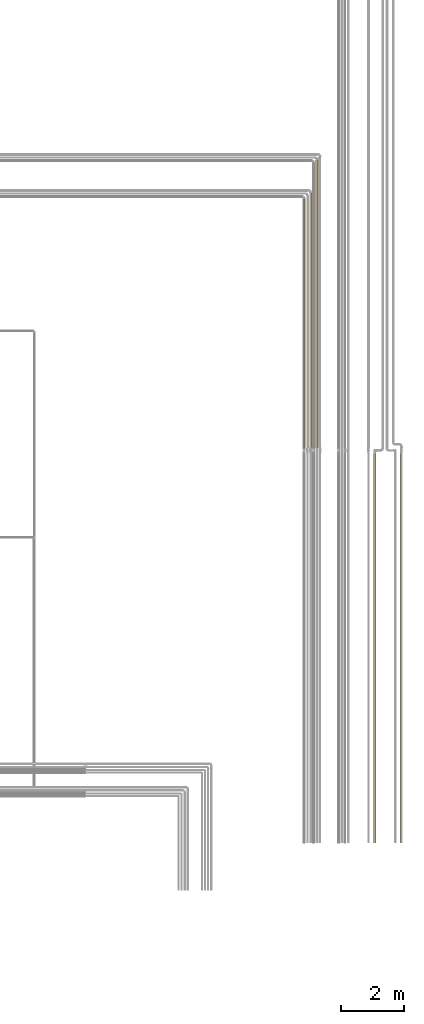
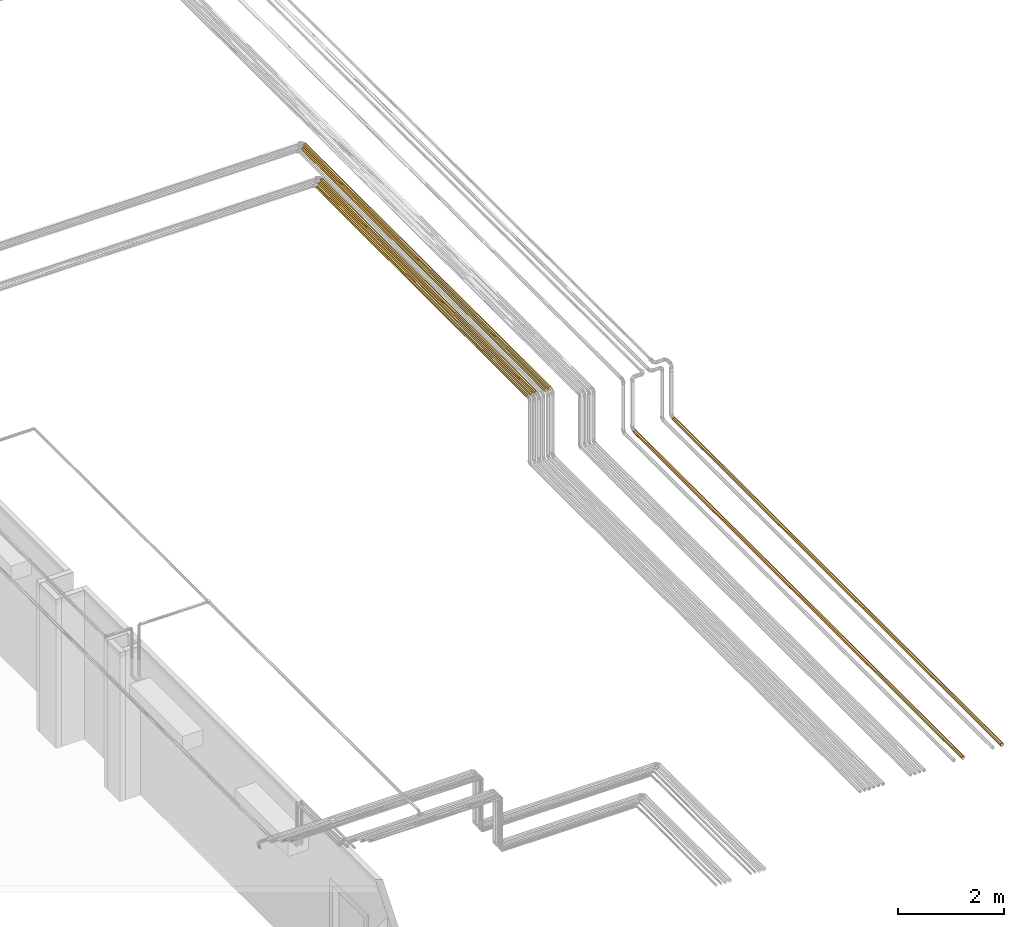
# One storey, part 136 of 652: 7 coverings.
"""IFC2X3 building model written with IfcOpenShell, lengths in millimetres."""

from ifc_helpers import new_model, entity, si_unit, converted_unit, direction, frame, origin, place, context, subcontext, project, spatial, faceted_brep, material, type_object, element, save


model = new_model("IFC2X3")

# Units and contexts
model_context = context("Model", 3, precision=0.01, world=frame((0.0, 0.0, 308426.39999999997)), true_north=direction((6.123233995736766e-17, 1.0)))
plan_context = context("Plan", 3, precision=0.01, world=frame((0.0, 0.0, 308426.39999999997)), true_north=direction((6.123233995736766e-17, 1.0)))
body_context = subcontext(model_context, "Body", "Model", "MODEL_VIEW")
ifc_project = project(units=[si_unit("LENGTHUNIT", "METRE", prefix="MILLI"), si_unit("AREAUNIT", "SQUARE_METRE"), si_unit("VOLUMEUNIT", "CUBIC_METRE"), converted_unit("PLANEANGLEUNIT", "DEGREE", entity("IfcPlaneAngleMeasure", 0.017453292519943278), si_unit("PLANEANGLEUNIT", "RADIAN"), dimensions=[0, 0, 0, 0, 0, 0, 0])], contexts=[model_context, plan_context])

# Site, building, storey
site_placement = place(None, origin())
site = spatial("IfcSite", under=ifc_project, at=site_placement, Name="Default", CompositionType="ELEMENT")
building_placement = place(site_placement, origin())
building = spatial("IfcBuilding", under=site, at=building_placement, CompositionType="ELEMENT")
storey_placement = place(building_placement, frame((0.0, 0.0, 1730.6999999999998)))
storey = spatial("IfcBuildingStorey", under=building, at=storey_placement, Name="EG_Produktion_FFB", CompositionType="ELEMENT", Elevation=1730.6999999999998)

# Coverings
ifc_material = material(Name="Dämmung - Armaflex-Schlauch")
covering_type = type_object("IfcCoveringType", Name="Rohrdämmung außen:Armaflex-Schlauch", PredefinedType="INSULATION")
covering_1_placement = place(storey_placement, frame((79540.49747546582, 39098.028353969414, 2358.4047277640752)))
element("IfcCovering", 1, at=covering_1_placement, inside=storey, type_object=covering_type, material=ifc_material, Name="Rohrdämmung außen:Armaflex-Schlauch", ObjectType="Rohrdämmung außen:Armaflex-Schlauch", PredefinedType="INSULATION", context=body_context, shape_type="Brep", body=[
    faceted_brep([(69.87954348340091, 12450.280000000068, 13.311000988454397), (62.80847567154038, 12450.280000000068, 10.382068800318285), (55.73740785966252, 12450.280000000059, 7.453136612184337), (48.730384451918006, 12450.280000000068, 4.550732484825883), (41.59527223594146, 12450.280000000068, 1.5952722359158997), (34.46016001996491, 12450.280000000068, 4.550732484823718), (27.45313661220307, 12450.280000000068, 7.453136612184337), (20.38206880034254, 12450.280000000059, 10.382068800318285), (13.31100098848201, 12450.280000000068, 13.311000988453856), (10.382068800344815, 12450.280000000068, 20.382068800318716), (7.453136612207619, 12450.280000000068, 27.45313661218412), (4.550732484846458, 12450.280000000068, 34.46016001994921), (1.5952722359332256, 12450.280000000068, 41.59527223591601), (4.550732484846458, 12450.280000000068, 48.73038445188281), (7.453136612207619, 12450.280000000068, 55.737407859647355), (10.382068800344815, 12450.280000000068, 62.80847567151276), (13.31100098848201, 12450.280000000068, 69.87954348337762), (20.38206880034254, 12450.280000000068, 72.80847567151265), (27.45313661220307, 12450.280000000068, 75.73740785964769), (34.46016001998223, 12450.280000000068, 78.63981198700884), (41.59527223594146, 12450.280000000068, 81.59527223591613), (48.73038445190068, 12450.280000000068, 78.63981198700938), (55.86549666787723, 12450.280000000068, 75.68435173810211), (62.87252007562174, 12450.280000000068, 72.78194761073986), (69.87954348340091, 12450.280000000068, 69.87954348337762), (72.8084756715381, 12450.280000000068, 62.80847567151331), (75.7374078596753, 12450.280000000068, 55.7374078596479), (78.63981198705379, 12450.280000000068, 48.73038445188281), (81.5952722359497, 12450.280000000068, 41.59527223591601), (78.6663400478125, 12450.280000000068, 34.52420442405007), (75.7374078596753, 12450.280000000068, 27.45313661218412), (72.8084756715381, 12450.280000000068, 20.382068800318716), (69.87954348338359, 0.0, 69.87954348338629), (62.80847567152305, 0.0, 72.80847567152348), (55.737407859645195, 0.0, 75.73740785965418), (48.666340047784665, 0.0, 78.66634004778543), (41.595272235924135, 0.0, 81.59527223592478), (34.46016001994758, 0.0, 78.6398119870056), (27.32504780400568, 0.0, 75.68435173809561), (20.31802439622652, 0.0, 72.78194761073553), (13.311000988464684, 0.0, 69.87954348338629), (10.382068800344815, 0.0, 62.80847567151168), (7.453136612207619, 0.0, 55.73740785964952), (4.524204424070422, 0.0, 48.666340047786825), (1.5952722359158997, 0.0, 41.595272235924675), (4.550732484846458, 0.0, 34.46016001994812), (7.50619273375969, 0.0, 27.32504780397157), (10.408596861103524, 0.0, 20.318024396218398), (13.311000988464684, 0.0, 13.311000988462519), (20.382068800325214, 0.0, 10.38206880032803), (27.45313661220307, 0.0, 7.453136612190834), (34.524204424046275, 0.0, 4.524204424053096), (41.595272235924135, 0.0, 1.5952722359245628), (48.730384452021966, 0.0, 4.550732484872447), (55.865496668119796, 0.0, 7.506192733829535), (62.87252007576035, 0.0, 10.408596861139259), (69.87954348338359, 0.0, 13.31100098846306), (72.8084756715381, 0.0, 20.382068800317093), (75.7374078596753, 0.0, 27.453136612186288), (78.6663400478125, 0.0, 34.52420442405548), (81.59527223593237, 0.0, 41.595272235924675), (78.63981198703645, 0.0, 48.730384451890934), (75.68435173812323, 0.0, 55.8654966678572), (72.78194761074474, 0.0, 62.87252007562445)], [[[0, 1, 2, 3, 4, 5, 6, 7, 8, 9, 10, 11, 12, 13, 14, 15, 16, 17, 18, 19, 20, 21, 22, 23, 24, 25, 26, 27, 28, 29, 30, 31]], [[32, 33, 34, 35, 36, 37, 38, 39, 40, 41, 42, 43, 44, 45, 46, 47, 48, 49, 50, 51, 52, 53, 54, 55, 56, 57, 58, 59, 60, 61, 62, 63]], [[58, 57, 56, 0, 31, 30, 29, 28, 60, 59]], [[0, 56, 55, 54, 53, 52, 4, 3, 2, 1]], [[4, 52, 51, 50, 49, 48, 8, 7, 6, 5]], [[8, 48, 47, 46, 45, 44, 12, 11, 10, 9]], [[12, 44, 43, 42, 41, 40, 16, 15, 14, 13]], [[16, 40, 39, 38, 37, 36, 20, 19, 18, 17]], [[32, 24, 23, 22, 21, 20, 36, 35, 34, 33]], [[24, 32, 63, 62, 61, 60, 28, 27, 26, 25]]]),
])
covering_2_placement = place(storey_placement, frame((78688.40472776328, 39098.02835396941, 2441.595272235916)))
element("IfcCovering", 2, at=covering_2_placement, inside=storey, type_object=covering_type, material=ifc_material, Name="Rohrdämmung außen:Armaflex-Schlauch", ObjectType="Rohrdämmung außen:Armaflex-Schlauch", PredefinedType="INSULATION", context=body_context, shape_type="Brep", body=[
    faceted_brep([(69.87954348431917, 12450.280000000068, -69.87954348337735), (62.80847567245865, 12450.280000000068, -72.80847567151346), (55.73740786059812, 12450.280000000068, -75.73740785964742), (48.73038445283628, 12450.280000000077, -78.63981198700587), (41.59527223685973, 12450.280000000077, -81.59527223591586), (34.4601600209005, 12450.280000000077, -78.63981198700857), (27.45313661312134, 12450.280000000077, -75.73740785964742), (20.38206880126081, 12450.280000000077, -72.80847567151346), (13.311000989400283, 12450.280000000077, -69.8795434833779), (10.382068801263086, 12450.280000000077, -62.80847567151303), (7.453136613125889, 12450.280000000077, -55.73740785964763), (4.550732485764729, 12450.280000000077, -48.73038445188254), (1.5952722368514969, 12450.280000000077, -41.59527223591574), (4.550732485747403, 12450.280000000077, -34.46016001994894), (7.453136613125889, 12450.280000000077, -27.45313661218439), (10.382068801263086, 12450.280000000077, -20.38206880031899), (13.311000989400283, 12450.280000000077, -13.311000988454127), (20.38206880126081, 12450.280000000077, -10.382068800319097), (27.45313661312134, 12450.280000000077, -7.453136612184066), (34.46016002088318, 12450.280000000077, -4.550732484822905), (41.59527223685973, 12450.280000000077, -1.595272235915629), (48.73038445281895, 12450.280000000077, -4.550732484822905), (55.73740786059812, 12450.280000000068, -7.453136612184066), (62.80847567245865, 12450.280000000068, -10.382068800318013), (69.87954348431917, 12450.280000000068, -13.311000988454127), (72.80847567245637, 12450.280000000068, -20.382068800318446), (75.73740786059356, 12450.280000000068, -27.45313661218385), (78.63981198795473, 12450.280000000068, -34.46016001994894), (81.59527223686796, 12450.280000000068, -41.59527223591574), (78.66634004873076, 12450.280000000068, -48.66634004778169), (75.73740786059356, 12450.280000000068, -55.73740785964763), (72.80847567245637, 12450.280000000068, -62.80847567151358), (69.87954348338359, 0.0, -13.311000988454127), (62.872520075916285, 0.0, -10.408596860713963), (55.86549666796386, 0.0, -7.506192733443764), (48.73038445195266, 0.0, -4.5507324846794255), (41.595272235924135, 0.0, -1.595272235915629), (34.52420442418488, 0.0, -4.524204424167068), (27.453136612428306, 0.0, -7.453136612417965), (20.38206880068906, 0.0, -10.382068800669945), (13.311000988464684, 0.0, -13.311000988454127), (10.408596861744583, 0.0, -20.31802439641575), (7.506192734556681, 0.0, -27.325047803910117), (4.550732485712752, 0.0, -34.46016001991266), (1.5952722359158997, 0.0, -41.59527223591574), (4.550732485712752, 0.0, -48.7303844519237), (7.5061927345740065, 0.0, -55.865496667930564), (10.408596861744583, 0.0, -62.87252007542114), (13.311000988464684, 0.0, -69.8795434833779), (20.382068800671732, 0.0, -72.80847567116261), (27.453136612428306, 0.0, -75.73740785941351), (34.52420442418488, 0.0, -78.6663400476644), (41.595272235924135, 0.0, -81.59527223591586), (48.73038445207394, 0.0, -78.63981198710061), (55.865496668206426, 0.0, -75.68435173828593), (62.87252007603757, 0.0, -72.78194761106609), (69.87954348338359, 0.0, -69.87954348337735), (72.80847567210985, 0.0, -62.80847567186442), (75.73740786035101, 0.0, -55.73740785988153), (78.66634004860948, 0.0, -48.666340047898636), (81.59527223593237, 0.0, -41.59527223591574), (78.66634004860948, 0.0, -34.524204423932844), (75.73740786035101, 0.0, -27.45313661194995), (72.80847567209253, 0.0, -20.3820687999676)], [[[0, 1, 2, 3, 4, 5, 6, 7, 8, 9, 10, 11, 12, 13, 14, 15, 16, 17, 18, 19, 20, 21, 22, 23, 24, 25, 26, 27, 28, 29, 30, 31]], [[32, 33, 34, 35, 36, 37, 38, 39, 40, 41, 42, 43, 44, 45, 46, 47, 48, 49, 50, 51, 52, 53, 54, 55, 56, 57, 58, 59, 60, 61, 62, 63]], [[58, 57, 56, 0, 31, 30, 29, 28, 60, 59]], [[0, 56, 55, 54, 53, 52, 4, 3, 2, 1]], [[4, 52, 51, 50, 49, 48, 8, 7, 6, 5]], [[8, 48, 47, 46, 45, 44, 12, 11, 10, 9]], [[13, 12, 44, 43, 42, 41, 40, 16, 15, 14]], [[16, 40, 39, 38, 37, 36, 20, 19, 18, 17]], [[34, 33, 32, 24, 23, 22, 21, 20, 36, 35]], [[24, 32, 63, 62, 61, 60, 28, 27, 26, 25]]]),
])
covering_3_placement = place(storey_placement, frame((76541.94222776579, 51712.11260396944, 3861.942227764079)))
element("IfcCovering", 3, at=covering_3_placement, inside=storey, type_object=covering_type, material=ifc_material, Name="Rohrdämmung außen:Armaflex-Schlauch", ObjectType="Rohrdämmung außen:Armaflex-Schlauch", PredefinedType="INSULATION", context=body_context, shape_type="Brep", body=[
    faceted_brep([(18.72061147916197, 0.0, 9.60498647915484), (25.166331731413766, 0.0, 6.935081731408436), (31.612051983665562, 0.0, 4.265176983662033), (38.057772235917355, 0.0, 1.595272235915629), (42.85168017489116, 0.0, 3.5809739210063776), (50.94921274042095, 0.0, 6.935081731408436), (57.394932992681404, 0.0, 9.604986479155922), (63.8406532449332, 0.0, 12.274891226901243), (66.5105579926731, 0.0, 18.720611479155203), (69.18046274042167, 0.0, 25.166331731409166), (71.85036748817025, 0.0, 31.612051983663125), (74.52027223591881, 0.0, 38.057772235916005), (72.53457055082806, 0.0, 42.85168017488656), (69.18046274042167, 0.0, 50.949212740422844), (66.5105579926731, 0.0, 57.3949329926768), (63.8406532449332, 0.0, 63.84065324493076), (57.39493299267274, 0.0, 66.51055799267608), (50.94921274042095, 0.0, 69.18046274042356), (44.50349248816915, 0.0, 71.85036748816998), (38.057772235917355, 0.0, 74.52027223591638), (33.263864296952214, 0.0, 72.53457055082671), (25.166331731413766, 0.0, 69.18046274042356), (18.72061147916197, 0.0, 66.51055799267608), (12.274891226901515, 0.0, 63.84065324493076), (9.604986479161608, 0.0, 57.3949329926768), (6.935081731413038, 0.0, 50.949212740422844), (4.265176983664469, 0.0, 44.50349248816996), (1.5952722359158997, 0.0, 38.057772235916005), (4.265176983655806, 0.0, 31.612051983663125), (6.935081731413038, 0.0, 25.166331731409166), (9.604986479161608, 0.0, 18.720611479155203), (12.274891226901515, 0.0, 12.274891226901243), (1.5952722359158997, 8063.803146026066, 38.057772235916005), (5.566675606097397, 8063.803146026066, 47.645588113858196), (8.920783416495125, 8063.803146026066, 55.74312067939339), (12.274891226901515, 8063.803146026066, 63.84065324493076), (18.72061147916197, 8063.803146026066, 66.51055799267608), (25.166331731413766, 8063.803146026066, 69.18046274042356), (31.612051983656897, 8063.803146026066, 71.85036748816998), (38.057772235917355, 8063.803146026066, 74.52027223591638), (47.64558811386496, 8063.803146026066, 70.54886886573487), (55.74312067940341, 8063.803146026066, 67.19476105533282), (63.8406532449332, 8063.803146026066, 63.84065324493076), (66.5105579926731, 8063.803146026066, 57.3949329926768), (69.18046274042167, 8063.803146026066, 50.949212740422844), (71.8503674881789, 8063.803146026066, 44.50349248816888), (74.52027223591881, 8063.803146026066, 38.057772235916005), (70.54886886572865, 8063.803146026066, 28.469956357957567), (67.19476105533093, 8063.803146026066, 20.37242379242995), (63.8406532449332, 8063.803146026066, 12.274891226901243), (57.39493299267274, 8063.803146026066, 9.60498647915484), (50.94921274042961, 8063.803146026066, 6.935081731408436), (44.50349248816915, 8063.803146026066, 4.265176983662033), (38.057772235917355, 8063.803146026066, 1.595272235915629), (28.469956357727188, 8063.803146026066, 5.566675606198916), (20.37242379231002, 8063.803146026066, 8.920783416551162), (12.274891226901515, 8063.803146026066, 12.274891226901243), (9.604986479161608, 8063.803146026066, 18.720611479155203), (6.935081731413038, 8063.803146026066, 25.166331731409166), (4.265176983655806, 8063.803146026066, 31.612051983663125)], [[[0, 1, 2, 3, 4, 5, 6, 7, 8, 9, 10, 11, 12, 13, 14, 15, 16, 17, 18, 19, 20, 21, 22, 23, 24, 25, 26, 27, 28, 29, 30, 31]], [[32, 33, 34, 35, 36, 37, 38, 39, 40, 41, 42, 43, 44, 45, 46, 47, 48, 49, 50, 51, 52, 53, 54, 55, 56, 57, 58, 59]], [[58, 57, 56, 31, 30, 29, 28, 27, 32, 59]], [[54, 53, 3, 2, 1, 0, 31, 56, 55]], [[51, 50, 49, 7, 6, 5, 4, 3, 53, 52]], [[7, 49, 48, 47, 46, 11, 10, 9, 8]], [[44, 43, 42, 15, 14, 13, 12, 11, 46, 45]], [[15, 42, 41, 40, 39, 19, 18, 17, 16]], [[37, 36, 35, 23, 22, 21, 20, 19, 39, 38]], [[23, 35, 34, 33, 32, 27, 26, 25, 24]]]),
])
covering_4_placement = place(storey_placement, frame((76445.11722776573, 51698.07910396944, 3934.8827722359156)))
element("IfcCovering", 4, at=covering_4_placement, inside=storey, type_object=covering_type, material=ifc_material, Name="Rohrdämmung außen:Armaflex-Schlauch", ObjectType="Rohrdämmung außen:Armaflex-Schlauch", PredefinedType="INSULATION", context=body_context, shape_type="Brep", body=[
    faceted_brep([(17.229409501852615, 0.0, -60.85800996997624), (23.113863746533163, 0.0, -63.295430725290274), (28.998317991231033, 0.0, -65.73285148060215), (34.88277223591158, 0.0, -68.1702722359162), (39.10200314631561, 0.0, -66.42260957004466), (46.65168072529, 0.0, -63.295430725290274), (52.53613496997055, 0.0, -60.85800996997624), (58.420589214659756, 0.0, -58.42058921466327), (60.85800996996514, 0.0, -52.53613496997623), (63.295430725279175, 0.0, -46.65168072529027), (65.73285148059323, 0.0, -40.76722648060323), (68.17027223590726, 0.0, -34.882772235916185), (66.4226095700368, 0.0, -30.663541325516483), (63.295430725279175, 0.0, -23.113863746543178), (60.8580099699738, 0.0, -17.22940950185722), (58.420589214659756, 0.0, -11.344955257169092), (52.53613496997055, 0.0, -8.907534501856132), (46.65168072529, 0.0, -6.470113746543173), (40.76722648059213, 0.0, -4.0326929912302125), (34.88277223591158, 0.0, -1.5952722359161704), (30.663541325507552, 0.0, -3.3429349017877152), (23.113863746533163, 0.0, -6.470113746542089), (17.229409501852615, 0.0, -8.907534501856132), (11.344955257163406, 0.0, -11.344955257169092), (8.907534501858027, 0.0, -17.229409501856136), (6.470113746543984, 0.0, -23.113863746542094), (4.032692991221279, 0.0, -28.998317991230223), (1.5952722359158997, 0.0, -34.882772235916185), (4.0326929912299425, 0.0, -40.76722648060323), (6.470113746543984, 0.0, -46.65168072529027), (8.907534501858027, 0.0, -52.53613496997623), (11.344955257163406, 0.0, -58.42058921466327), (1.5952722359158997, 7991.870146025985, -34.882772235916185), (5.090597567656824, 7991.870146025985, -26.4443104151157), (8.217776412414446, 7991.870146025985, -18.894632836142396), (11.344955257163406, 7991.870146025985, -11.344955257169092), (17.229409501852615, 7991.870146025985, -8.907534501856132), (23.113863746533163, 7991.870146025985, -6.470113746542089), (28.998317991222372, 7991.870146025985, -4.0326929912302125), (34.88277223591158, 7991.870146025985, -1.5952722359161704), (43.32123405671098, 7991.870146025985, -5.0905975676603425), (50.87091163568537, 7991.870146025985, -8.2177764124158), (58.420589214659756, 7991.870146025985, -11.344955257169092), (60.85800996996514, 7991.870146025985, -17.22940950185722), (63.295430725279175, 7991.870146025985, -23.113863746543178), (65.73285148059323, 7991.870146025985, -28.99831799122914), (68.17027223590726, 7991.870146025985, -34.882772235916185), (64.67494690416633, 7991.870146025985, -43.321234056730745), (61.54776805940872, 7991.870146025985, -50.870911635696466), (58.420589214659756, 7991.870146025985, -58.42058921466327), (52.53613496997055, 7991.870146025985, -60.85800996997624), (46.65168072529, 7991.870146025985, -63.295430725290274), (40.76722648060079, 7991.870146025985, -65.73285148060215), (34.88277223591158, 7991.870146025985, -68.1702722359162), (26.444310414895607, 7991.870146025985, -64.67494690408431), (18.894632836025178, 7991.870146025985, -61.547768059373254), (11.344955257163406, 7991.870146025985, -58.42058921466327), (8.907534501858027, 7991.870146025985, -52.53613496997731), (6.470113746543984, 7991.870146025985, -46.65168072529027), (4.032692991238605, 7991.870146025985, -40.76722648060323)], [[[0, 1, 2, 3, 4, 5, 6, 7, 8, 9, 10, 11, 12, 13, 14, 15, 16, 17, 18, 19, 20, 21, 22, 23, 24, 25, 26, 27, 28, 29, 30, 31]], [[32, 33, 34, 35, 36, 37, 38, 39, 40, 41, 42, 43, 44, 45, 46, 47, 48, 49, 50, 51, 52, 53, 54, 55, 56, 57, 58, 59]], [[58, 57, 56, 31, 30, 29, 28, 27, 32, 59]], [[54, 53, 3, 2, 1, 0, 31, 56, 55]], [[51, 50, 49, 7, 6, 5, 4, 3, 53, 52]], [[7, 49, 48, 47, 46, 11, 10, 9, 8]], [[44, 43, 42, 15, 14, 13, 12, 11, 46, 45]], [[15, 42, 41, 40, 39, 19, 18, 17, 16]], [[37, 36, 35, 23, 22, 21, 20, 19, 39, 38]], [[23, 35, 34, 33, 32, 27, 26, 25, 24]]]),
])
covering_5_placement = place(storey_placement, frame((76638.76722776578, 51726.146103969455, 3858.767227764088)))
element("IfcCovering", 5, at=covering_5_placement, inside=storey, type_object=covering_type, material=ifc_material, Name="Rohrdämmung außen:Armaflex-Schlauch", ObjectType="Rohrdämmung außen:Armaflex-Schlauch", PredefinedType="INSULATION", context=body_context, shape_type="Brep", body=[
    faceted_brep([(20.211813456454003, 0.0, 10.302438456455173), (27.218799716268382, 0.0, 7.4000497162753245), (34.22578597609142, 0.0, 4.497660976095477), (41.23277223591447, 0.0, 1.595272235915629), (46.61822809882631, 0.0, 3.826001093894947), (55.246744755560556, 0.0, 7.4000497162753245), (62.25373101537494, 0.0, 10.302438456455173), (69.26071727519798, 0.0, 13.204827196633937), (72.1631060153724, 0.0, 20.211813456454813), (75.0654947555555, 0.0, 27.21879971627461), (77.9678834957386, 0.0, 34.22578597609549), (80.87027223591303, 0.0, 41.232772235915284), (78.63954337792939, 0.0, 46.61822809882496), (75.0654947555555, 0.0, 55.24674475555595), (72.16310601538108, 0.0, 62.25373101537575), (69.26071727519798, 0.0, 69.26071727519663), (62.25373101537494, 0.0, 72.16310601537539), (55.246744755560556, 0.0, 75.06549475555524), (48.23975849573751, 0.0, 77.96788349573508), (41.23277223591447, 0.0, 80.87027223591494), (35.84731637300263, 0.0, 78.6395433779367), (27.218799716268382, 0.0, 75.06549475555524), (20.211813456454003, 0.0, 72.16310601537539), (13.204827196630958, 0.0, 69.26071727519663), (10.302438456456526, 0.0, 62.25373101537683), (7.400049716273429, 0.0, 55.24674475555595), (4.497660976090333, 0.0, 48.23975849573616), (1.5952722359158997, 0.0, 41.232772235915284), (4.497660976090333, 0.0, 34.22578597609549), (7.400049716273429, 0.0, 27.21879971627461), (10.302438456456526, 0.0, 20.211813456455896), (13.204827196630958, 0.0, 13.204827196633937), (1.5952722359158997, 8135.7361460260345, 41.232772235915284), (6.056729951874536, 8135.7361460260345, 52.0036839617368), (9.630778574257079, 8135.736146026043, 60.63220061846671), (13.204827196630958, 8135.7361460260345, 69.26071727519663), (20.211813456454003, 8135.7361460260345, 72.16310601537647), (27.218799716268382, 8135.7361460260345, 75.06549475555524), (34.22578597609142, 8135.736146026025, 77.96788349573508), (41.23277223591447, 8135.7361460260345, 80.87027223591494), (52.00368396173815, 8135.7361460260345, 76.40881451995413), (60.632200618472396, 8135.7361460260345, 72.83476589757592), (69.26071727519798, 8135.7361460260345, 69.26071727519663), (72.1631060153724, 8135.7361460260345, 62.25373101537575), (75.0654947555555, 8135.7361460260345, 55.24674475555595), (77.9678834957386, 8135.7361460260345, 48.239758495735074), (80.87027223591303, 8135.7361460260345, 41.232772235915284), (76.4088145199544, 8135.7361460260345, 30.461860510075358), (72.83476589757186, 8135.7361460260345, 21.83334385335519), (69.26071727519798, 8135.7361460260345, 13.204827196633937), (62.25373101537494, 8135.7361460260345, 10.302438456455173), (55.246744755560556, 8135.736146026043, 7.4000497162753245), (48.23975849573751, 8135.7361460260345, 4.497660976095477), (41.23277223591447, 8135.7361460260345, 1.595272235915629), (30.461860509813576, 8135.7361460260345, 6.056729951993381), (21.833343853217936, 8135.736146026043, 9.630778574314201), (13.204827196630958, 8135.7361460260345, 13.204827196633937), (10.302438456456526, 8135.7361460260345, 20.211813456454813), (7.400049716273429, 8135.7361460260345, 27.21879971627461), (4.497660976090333, 8135.7361460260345, 34.22578597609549)], [[[0, 1, 2, 3, 4, 5, 6, 7, 8, 9, 10, 11, 12, 13, 14, 15, 16, 17, 18, 19, 20, 21, 22, 23, 24, 25, 26, 27, 28, 29, 30, 31]], [[32, 33, 34, 35, 36, 37, 38, 39, 40, 41, 42, 43, 44, 45, 46, 47, 48, 49, 50, 51, 52, 53, 54, 55, 56, 57, 58, 59]], [[58, 57, 56, 31, 30, 29, 28, 27, 32, 59]], [[54, 53, 3, 2, 1, 0, 31, 56, 55]], [[51, 50, 49, 7, 6, 5, 4, 3, 53, 52]], [[7, 49, 48, 47, 46, 11, 10, 9, 8]], [[44, 43, 42, 15, 14, 13, 12, 11, 46, 45]], [[15, 42, 41, 40, 39, 19, 18, 17, 16]], [[37, 36, 35, 23, 22, 21, 20, 19, 39, 38]], [[23, 35, 34, 33, 32, 27, 26, 25, 24]]]),
])
covering_6_placement = place(storey_placement, frame((76938.76722776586, 51726.146103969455, 3858.767227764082)))
element("IfcCovering", 6, at=covering_6_placement, inside=storey, type_object=covering_type, material=ifc_material, Name="Rohrdämmung außen:Armaflex-Schlauch", ObjectType="Rohrdämmung außen:Armaflex-Schlauch", PredefinedType="INSULATION", context=body_context, shape_type="Brep", body=[
    faceted_brep([(20.211813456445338, 0.0, 10.302438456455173), (27.218799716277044, 0.0, 7.4000497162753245), (34.22578597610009, 0.0, 4.497660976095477), (41.23277223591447, 0.0, 1.595272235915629), (50.66975111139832, 0.0, 5.50419687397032), (55.246744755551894, 0.0, 7.4000497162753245), (62.25373101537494, 0.0, 10.302438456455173), (69.26071727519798, 0.0, 13.204827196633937), (72.16310601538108, 0.0, 20.211813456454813), (75.06549475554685, 0.0, 27.21879971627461), (77.96788349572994, 0.0, 34.2257859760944), (80.87027223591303, 0.0, 41.232772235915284), (76.961347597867, 0.0, 50.66975111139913), (75.0654947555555, 0.0, 55.24674475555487), (72.16310601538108, 0.0, 62.25373101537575), (69.26071727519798, 0.0, 69.26071727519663), (62.25373101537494, 0.0, 72.16310601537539), (55.246744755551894, 0.0, 75.06549475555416), (48.23975849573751, 0.0, 77.96788349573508), (41.23277223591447, 0.0, 80.87027223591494), (31.79579336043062, 0.0, 76.96134759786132), (27.218799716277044, 0.0, 75.06549475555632), (20.211813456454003, 0.0, 72.16310601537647), (13.204827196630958, 0.0, 69.26071727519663), (10.302438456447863, 0.0, 62.25373101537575), (7.400049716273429, 0.0, 55.24674475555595), (4.497660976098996, 0.0, 48.23975849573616), (1.5952722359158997, 0.0, 41.232772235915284), (4.497660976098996, 0.0, 34.22578597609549), (7.400049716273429, 0.0, 27.21879971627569), (10.302438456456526, 0.0, 20.211813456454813), (13.204827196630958, 0.0, 13.204827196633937), (1.5952722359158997, 9285.736146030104, 41.232772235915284), (5.504196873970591, 9285.736146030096, 50.6697511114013), (9.413121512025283, 9285.736146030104, 60.106729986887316), (13.204827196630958, 9285.736146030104, 69.26071727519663), (20.211813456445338, 9285.736146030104, 72.16310601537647), (27.218799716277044, 9285.736146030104, 75.06549475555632), (34.22578597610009, 9285.736146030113, 77.96788349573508), (41.23277223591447, 9285.736146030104, 80.87027223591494), (50.66975111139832, 9285.736146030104, 76.96134759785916), (60.106729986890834, 9285.736146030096, 73.05242295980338), (69.26071727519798, 9285.736146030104, 69.26071727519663), (72.16310601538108, 9285.736146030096, 62.25373101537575), (75.0654947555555, 9285.736146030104, 55.24674475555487), (77.96788349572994, 9285.736146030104, 48.239758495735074), (80.87027223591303, 9285.736146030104, 41.232772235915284), (76.96134759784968, 9285.736146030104, 31.795793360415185), (73.05242295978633, 9285.736146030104, 22.358814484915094), (69.26071727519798, 9285.736146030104, 13.204827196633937), (62.25373101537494, 9285.736146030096, 10.302438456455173), (55.246744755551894, 9285.736146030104, 7.4000497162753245), (48.23975849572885, 9285.736146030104, 4.497660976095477), (41.23277223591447, 9285.736146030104, 1.595272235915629), (31.79579336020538, 9285.736146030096, 5.504196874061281), (22.358814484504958, 9285.736146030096, 9.413121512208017), (13.204827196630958, 9285.736146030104, 13.204827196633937), (10.302438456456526, 9285.736146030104, 20.211813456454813), (7.400049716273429, 9285.736146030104, 27.21879971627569), (4.497660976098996, 9285.736146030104, 34.22578597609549)], [[[0, 1, 2, 3, 4, 5, 6, 7, 8, 9, 10, 11, 12, 13, 14, 15, 16, 17, 18, 19, 20, 21, 22, 23, 24, 25, 26, 27, 28, 29, 30, 31]], [[32, 33, 34, 35, 36, 37, 38, 39, 40, 41, 42, 43, 44, 45, 46, 47, 48, 49, 50, 51, 52, 53, 54, 55, 56, 57, 58, 59]], [[58, 57, 56, 31, 30, 29, 28, 27, 32, 59]], [[56, 55, 54, 53, 3, 2, 1, 0, 31]], [[9, 8, 7, 49, 48, 47, 46, 11, 10]], [[6, 5, 4, 3, 53, 52, 51, 50, 49, 7]], [[17, 16, 15, 42, 41, 40, 39, 19, 18]], [[14, 13, 12, 11, 46, 45, 44, 43, 42, 15]], [[25, 24, 23, 35, 34, 33, 32, 27, 26]], [[22, 21, 20, 19, 39, 38, 37, 36, 35, 23]]]),
])
covering_7_placement = place(storey_placement, frame((76841.94222776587, 51712.11260396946, 3861.942227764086)))
element("IfcCovering", 7, at=covering_7_placement, inside=storey, type_object=covering_type, material=ifc_material, Name="Rohrdämmung außen:Armaflex-Schlauch", ObjectType="Rohrdämmung außen:Armaflex-Schlauch", PredefinedType="INSULATION", context=body_context, shape_type="Brep", body=[
    faceted_brep([(18.72061147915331, 0.0, 9.604986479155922), (25.166331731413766, 0.0, 6.935081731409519), (31.612051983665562, 0.0, 4.265176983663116), (38.057772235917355, 0.0, 1.595272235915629), (46.44890656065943, 0.0, 5.070993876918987), (50.94921274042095, 0.0, 6.935081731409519), (57.394932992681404, 0.0, 9.604986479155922), (63.8406532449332, 0.0, 12.274891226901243), (66.51055799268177, 0.0, 18.720611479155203), (69.18046274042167, 0.0, 25.166331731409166), (71.85036748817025, 0.0, 31.61205198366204), (74.52027223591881, 0.0, 38.057772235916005), (71.0445505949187, 0.0, 46.448906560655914), (69.18046274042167, 0.0, 50.949212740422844), (66.51055799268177, 0.0, 57.39493299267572), (63.8406532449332, 0.0, 63.84065324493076), (57.394932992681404, 0.0, 66.51055799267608), (50.94921274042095, 0.0, 69.18046274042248), (44.50349248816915, 0.0, 71.85036748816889), (38.057772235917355, 0.0, 74.52027223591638), (29.666637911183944, 0.0, 71.0445505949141), (25.166331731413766, 0.0, 69.18046274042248), (18.72061147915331, 0.0, 66.51055799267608), (12.274891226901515, 0.0, 63.84065324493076), (9.604986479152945, 0.0, 57.39493299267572), (6.935081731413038, 0.0, 50.949212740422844), (4.265176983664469, 0.0, 44.50349248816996), (1.5952722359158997, 0.0, 38.057772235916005), (4.265176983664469, 0.0, 31.61205198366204), (6.935081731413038, 0.0, 25.166331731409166), (9.604986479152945, 0.0, 18.720611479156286), (12.274891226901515, 0.0, 12.274891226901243), (1.5952722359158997, 9213.803146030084, 38.057772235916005), (5.070993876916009, 9213.803146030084, 46.44890656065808), (8.546715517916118, 9213.803146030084, 54.84004088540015), (12.274891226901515, 9213.803146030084, 63.84065324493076), (18.72061147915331, 9213.803146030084, 66.51055799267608), (25.166331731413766, 9213.803146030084, 69.18046274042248), (31.612051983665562, 9213.803146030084, 71.85036748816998), (38.057772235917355, 9213.803146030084, 74.52027223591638), (46.44890656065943, 9213.803146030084, 71.04455059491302), (54.84004088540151, 9213.803146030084, 67.56882895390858), (63.8406532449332, 9213.803146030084, 63.84065324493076), (66.51055799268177, 9213.803146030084, 57.3949329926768), (69.18046274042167, 9213.803146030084, 50.949212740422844), (71.85036748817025, 9213.803146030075, 44.50349248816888), (74.52027223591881, 9213.803146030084, 38.057772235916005), (71.0445505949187, 9213.803146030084, 29.666637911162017), (67.56882895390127, 9213.803146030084, 21.27550358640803), (63.8406532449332, 9213.803146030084, 12.274891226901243), (57.394932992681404, 9213.803146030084, 9.604986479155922), (50.94921274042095, 9213.803146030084, 6.935081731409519), (44.50349248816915, 9213.803146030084, 4.265176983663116), (38.057772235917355, 9213.803146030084, 1.595272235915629), (29.66663791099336, 9213.803146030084, 5.0709938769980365), (21.275503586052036, 9213.803146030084, 8.546715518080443), (12.274891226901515, 9213.803146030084, 12.274891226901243), (9.604986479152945, 9213.803146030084, 18.720611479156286), (6.935081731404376, 9213.803146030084, 25.166331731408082), (4.265176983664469, 9213.803146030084, 31.61205198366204)], [[[0, 1, 2, 3, 4, 5, 6, 7, 8, 9, 10, 11, 12, 13, 14, 15, 16, 17, 18, 19, 20, 21, 22, 23, 24, 25, 26, 27, 28, 29, 30, 31]], [[32, 33, 34, 35, 36, 37, 38, 39, 40, 41, 42, 43, 44, 45, 46, 47, 48, 49, 50, 51, 52, 53, 54, 55, 56, 57, 58, 59]], [[58, 57, 56, 31, 30, 29, 28, 27, 32, 59]], [[56, 55, 54, 53, 3, 2, 1, 0, 31]], [[9, 8, 7, 49, 48, 47, 46, 11, 10]], [[6, 5, 4, 3, 53, 52, 51, 50, 49, 7]], [[17, 16, 15, 42, 41, 40, 39, 19, 18]], [[14, 13, 12, 11, 46, 45, 44, 43, 42, 15]], [[25, 24, 23, 35, 34, 33, 32, 27, 26]], [[22, 21, 20, 19, 39, 38, 37, 36, 35, 23]]]),
])

save(model, "model.ifc")
